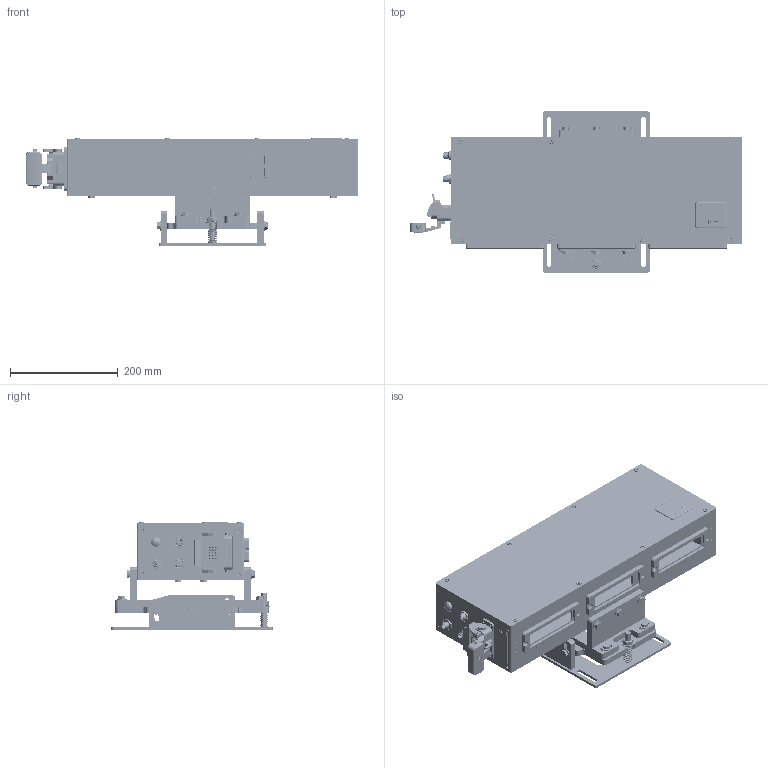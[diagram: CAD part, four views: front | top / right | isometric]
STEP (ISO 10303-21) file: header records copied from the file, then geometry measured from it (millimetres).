
FILE_DESCRIPTION (( 'STEP AP214' ), '1' );
FILE_NAME ('XD500_Backlight_Exterieur.STEP', '2023-10-12T06:57:16', ( '' ), ( '' ), 'SwSTEP 2.0', 'SolidWorks 2014', '' );
FILE_SCHEMA (( 'AUTOMOTIVE_DESIGN' ));
Length unit declared in the file: millimetre
Products named in the file (1): XD500_Backlight_Exterieur
Bounding box: 617.6 x 300 x 202.6 mm (x, y, z)
Surface area: 1383043.3 mm2 (no closed solid volume)
Topology: 0 solids, 115 shells, 4993 faces, 12369 edges, 7843 vertices
Faces by surface type: plane 2034, cylinder 1927, cone 553, bspline 398, torus 50, sphere 31
Full cylindrical faces by diameter (mm): 10.5 x1
Entity records: 242843 total; most frequent: CARTESIAN_POINT 71006, ORIENTED_EDGE 24376, DIRECTION 23299, EDGE_CURVE 12196, AXIS2_PLACEMENT_3D 8752, VERTEX_POINT 7844, VECTOR 5795, LINE 5795
